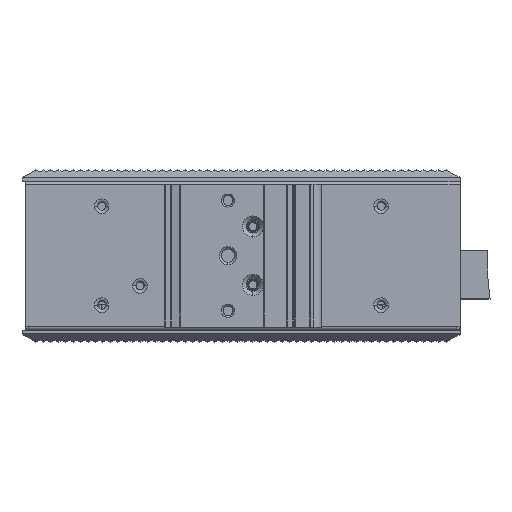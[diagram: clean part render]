
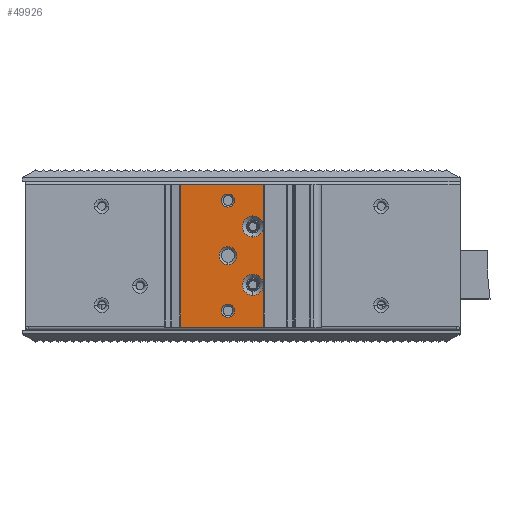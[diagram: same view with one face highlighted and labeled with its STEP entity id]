
A CAD part, top view. The second image highlights one B-rep face of the part: STEP entity #49926.
In plain terms, the highlighted planar face has unit normal (0, 0, 1).
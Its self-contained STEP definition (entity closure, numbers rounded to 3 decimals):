
#48257=CARTESIAN_POINT('',(2.83,30.9,48.7));
#48258=DIRECTION('',(0.,0.,-1.));
#48259=DIRECTION('',(0.,1.,0.));
#48260=AXIS2_PLACEMENT_3D('',#48257,#48258,#48259);
#48262=CARTESIAN_POINT('',(2.83,30.9,48.7));
#48263=DIRECTION('',(0.,0.,-1.));
#48264=DIRECTION('',(0.,-1.,0.));
#48265=AXIS2_PLACEMENT_3D('',#48262,#48263,#48264);
#48267=CARTESIAN_POINT('',(2.83,30.9,48.7));
#48268=DIRECTION('',(0.,0.,-1.));
#48269=DIRECTION('',(0.985,-0.175,0.));
#48270=AXIS2_PLACEMENT_3D('',#48267,#48268,#48269);
#48272=CARTESIAN_POINT('',(2.83,12.9,48.7));
#48273=DIRECTION('',(0.,0.,-1.));
#48274=DIRECTION('',(0.,1.,0.));
#48275=AXIS2_PLACEMENT_3D('',#48272,#48273,#48274);
#48277=CARTESIAN_POINT('',(2.83,12.9,48.7));
#48278=DIRECTION('',(0.,0.,-1.));
#48279=DIRECTION('',(0.,-1.,0.));
#48280=AXIS2_PLACEMENT_3D('',#48277,#48278,#48279);
#48282=CARTESIAN_POINT('',(2.83,12.9,48.7));
#48283=DIRECTION('',(0.,0.,-1.));
#48284=DIRECTION('',(0.985,-0.175,0.));
#48285=AXIS2_PLACEMENT_3D('',#48282,#48283,#48284);
#48287=DIRECTION('',(-1.,0.,0.));
#48288=VECTOR('',#48287,25.635);
#48289=CARTESIAN_POINT('',(6.03,43.9,48.7));
#48290=LINE('',#48289,#48288);
#48291=CARTESIAN_POINT('',(-4.87,21.9,48.7));
#48292=DIRECTION('',(0.,0.,-1.));
#48293=DIRECTION('',(0.,1.,0.));
#48294=AXIS2_PLACEMENT_3D('',#48291,#48292,#48293);
#48296=CARTESIAN_POINT('',(-4.87,21.9,48.7));
#48297=DIRECTION('',(0.,0.,-1.));
#48298=DIRECTION('',(0.,-1.,0.));
#48299=AXIS2_PLACEMENT_3D('',#48296,#48297,#48298);
#48301=CARTESIAN_POINT('',(-4.87,4.9,48.7));
#48302=DIRECTION('',(0.,0.,-1.));
#48303=DIRECTION('',(0.,1.,0.));
#48304=AXIS2_PLACEMENT_3D('',#48301,#48302,#48303);
#48306=CARTESIAN_POINT('',(-4.87,4.9,48.7));
#48307=DIRECTION('',(0.,0.,-1.));
#48308=DIRECTION('',(0.,-1.,0.));
#48309=AXIS2_PLACEMENT_3D('',#48306,#48307,#48308);
#48311=CARTESIAN_POINT('',(-4.87,38.9,48.7));
#48312=DIRECTION('',(0.,0.,-1.));
#48313=DIRECTION('',(0.,1.,0.));
#48314=AXIS2_PLACEMENT_3D('',#48311,#48312,#48313);
#48316=CARTESIAN_POINT('',(-4.87,38.9,48.7));
#48317=DIRECTION('',(0.,0.,-1.));
#48318=DIRECTION('',(0.,-1.,0.));
#48319=AXIS2_PLACEMENT_3D('',#48316,#48317,#48318);
#48334=DIRECTION('',(0.,-1.,0.));
#48335=VECTOR('',#48334,16.864);
#48336=CARTESIAN_POINT('',(6.03,30.332,48.7));
#48337=LINE('',#48336,#48335);
#48345=CARTESIAN_POINT('',(6.03,31.468,48.7));
#48352=DIRECTION('',(0.,-1.,0.));
#48353=VECTOR('',#48352,12.432);
#48354=CARTESIAN_POINT('',(6.03,43.9,48.7));
#48355=LINE('',#48354,#48353);
#48360=DIRECTION('',(0.,-1.,0.));
#48361=VECTOR('',#48360,12.432);
#48362=CARTESIAN_POINT('',(6.03,12.332,48.7));
#48363=LINE('',#48362,#48361);
#48369=CARTESIAN_POINT('',(6.03,12.332,48.7));
#48585=DIRECTION('',(0.,1.,0.));
#48586=VECTOR('',#48585,44.);
#48587=CARTESIAN_POINT('',(-19.605,-0.1,48.7));
#48588=LINE('',#48587,#48586);
#48589=DIRECTION('',(-1.,0.,0.));
#48590=VECTOR('',#48589,25.635);
#48591=CARTESIAN_POINT('',(6.03,-0.1,48.7));
#48592=LINE('',#48591,#48590);
#49489=CARTESIAN_POINT('',(6.03,-0.1,48.7));
#49490=CARTESIAN_POINT('',(-19.605,-0.1,48.7));
#49491=VERTEX_POINT('',#49489);
#49492=VERTEX_POINT('',#49490);
#49493=CARTESIAN_POINT('',(6.03,30.332,48.7));
#49494=CARTESIAN_POINT('',(6.03,13.468,48.7));
#49495=VERTEX_POINT('',#49493);
#49496=VERTEX_POINT('',#49494);
#49502=VERTEX_POINT('',#48345);
#49504=VERTEX_POINT('',#48369);
#49509=CARTESIAN_POINT('',(-19.605,43.9,48.7));
#49510=VERTEX_POINT('',#49509);
#49511=CARTESIAN_POINT('',(2.83,34.15,48.7));
#49512=VERTEX_POINT('',#49511);
#49513=CARTESIAN_POINT('',(2.83,27.65,48.7));
#49514=VERTEX_POINT('',#49513);
#49515=CARTESIAN_POINT('',(6.03,43.9,48.7));
#49516=VERTEX_POINT('',#49515);
#49517=CARTESIAN_POINT('',(2.83,16.15,48.7));
#49518=VERTEX_POINT('',#49517);
#49527=CARTESIAN_POINT('',(2.83,9.65,48.7));
#49528=VERTEX_POINT('',#49527);
#49531=CARTESIAN_POINT('',(-4.87,24.65,48.7));
#49532=CARTESIAN_POINT('',(-4.87,19.15,48.7));
#49533=VERTEX_POINT('',#49531);
#49534=VERTEX_POINT('',#49532);
#49545=CARTESIAN_POINT('',(-4.87,6.9,48.7));
#49546=CARTESIAN_POINT('',(-4.87,2.9,48.7));
#49547=VERTEX_POINT('',#49545);
#49548=VERTEX_POINT('',#49546);
#49565=CARTESIAN_POINT('',(-4.87,40.9,48.7));
#49566=CARTESIAN_POINT('',(-4.87,36.9,48.7));
#49567=VERTEX_POINT('',#49565);
#49568=VERTEX_POINT('',#49566);
#49879=CARTESIAN_POINT('',(6.23,48.3,48.7));
#49880=DIRECTION('',(0.,0.,-1.));
#49881=DIRECTION('',(-1.,0.,0.));
#49882=AXIS2_PLACEMENT_3D('',#49879,#49880,#49881);
#49883=PLANE('',#49882);
#49885=ORIENTED_EDGE('',*,*,#49884,.F.);
#49887=ORIENTED_EDGE('',*,*,#49886,.F.);
#49889=ORIENTED_EDGE('',*,*,#49888,.F.);
#49891=ORIENTED_EDGE('',*,*,#49890,.T.);
#49893=ORIENTED_EDGE('',*,*,#49892,.F.);
#49895=ORIENTED_EDGE('',*,*,#49894,.F.);
#49897=ORIENTED_EDGE('',*,*,#49896,.F.);
#49899=ORIENTED_EDGE('',*,*,#49898,.T.);
#49901=ORIENTED_EDGE('',*,*,#49900,.T.);
#49903=ORIENTED_EDGE('',*,*,#49902,.T.);
#49905=ORIENTED_EDGE('',*,*,#49904,.F.);
#49907=ORIENTED_EDGE('',*,*,#49906,.T.);
#49908=EDGE_LOOP('',(#49885,#49887,#49889,#49891,#49893,#49895,#49897,#49899,
#49901,#49903,#49905,#49907));
#49909=FACE_OUTER_BOUND('',#49908,.F.);
#49911=ORIENTED_EDGE('',*,*,#49910,.F.);
#49913=ORIENTED_EDGE('',*,*,#49912,.F.);
#49914=EDGE_LOOP('',(#49911,#49913));
#49915=FACE_BOUND('',#49914,.F.);
#49917=ORIENTED_EDGE('',*,*,#49916,.F.);
#49919=ORIENTED_EDGE('',*,*,#49918,.F.);
#49920=EDGE_LOOP('',(#49917,#49919));
#49921=FACE_BOUND('',#49920,.F.);
#49922=ORIENTED_EDGE('',*,*,#49871,.F.);
#49923=ORIENTED_EDGE('',*,*,#49856,.F.);
#49924=EDGE_LOOP('',(#49922,#49923));
#49925=FACE_BOUND('',#49924,.F.);
#48261=CIRCLE('',#48260,3.25);
#48266=CIRCLE('',#48265,3.25);
#48271=CIRCLE('',#48270,3.25);
#48276=CIRCLE('',#48275,3.25);
#48281=CIRCLE('',#48280,3.25);
#48286=CIRCLE('',#48285,3.25);
#48295=CIRCLE('',#48294,2.75);
#48300=CIRCLE('',#48299,2.75);
#48305=CIRCLE('',#48304,2.);
#48310=CIRCLE('',#48309,2.);
#48315=CIRCLE('',#48314,2.);
#48320=CIRCLE('',#48319,2.);
#49856=EDGE_CURVE('',#49568,#49567,#48320,.T.);
#49871=EDGE_CURVE('',#49567,#49568,#48315,.T.);
#49884=EDGE_CURVE('',#49512,#49502,#48261,.T.);
#49886=EDGE_CURVE('',#49514,#49512,#48266,.T.);
#49888=EDGE_CURVE('',#49495,#49514,#48271,.T.);
#49890=EDGE_CURVE('',#49495,#49496,#48337,.T.);
#49892=EDGE_CURVE('',#49518,#49496,#48276,.T.);
#49894=EDGE_CURVE('',#49528,#49518,#48281,.T.);
#49896=EDGE_CURVE('',#49504,#49528,#48286,.T.);
#49898=EDGE_CURVE('',#49504,#49491,#48363,.T.);
#49900=EDGE_CURVE('',#49491,#49492,#48592,.T.);
#49902=EDGE_CURVE('',#49492,#49510,#48588,.T.);
#49904=EDGE_CURVE('',#49516,#49510,#48290,.T.);
#49906=EDGE_CURVE('',#49516,#49502,#48355,.T.);
#49910=EDGE_CURVE('',#49533,#49534,#48295,.T.);
#49912=EDGE_CURVE('',#49534,#49533,#48300,.T.);
#49916=EDGE_CURVE('',#49547,#49548,#48305,.T.);
#49918=EDGE_CURVE('',#49548,#49547,#48310,.T.);
#49926=ADVANCED_FACE('',(#49909,#49915,#49921,#49925),#49883,.F.);
